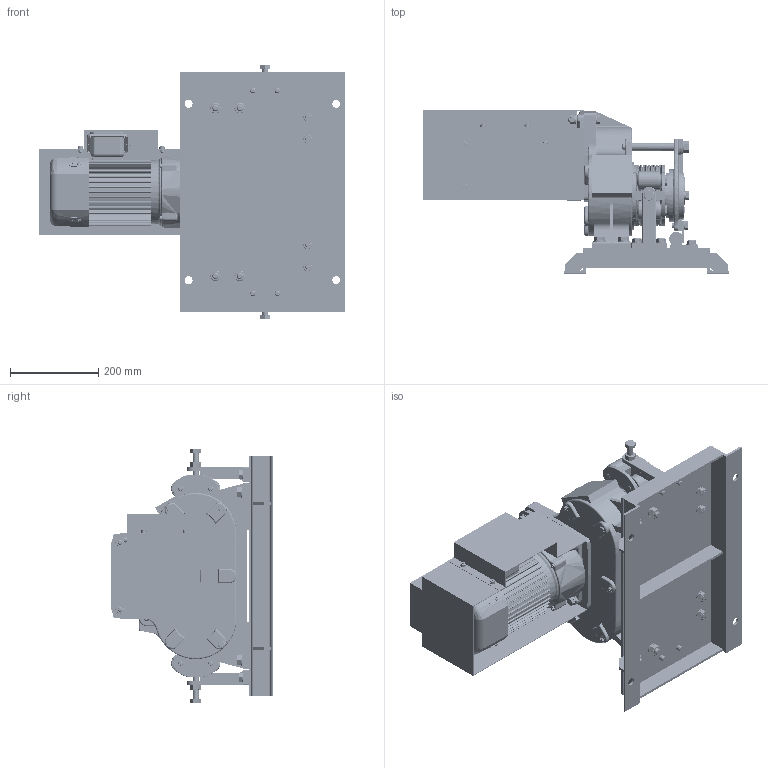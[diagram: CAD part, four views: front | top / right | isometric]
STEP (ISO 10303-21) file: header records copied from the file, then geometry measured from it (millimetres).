
FILE_DESCRIPTION( (''), '2;1');
FILE_NAME ('EME-700.stp','2023-05-11T14:15:41',(''),(''),'spGate 19.8.2 (****-****-****-****)','','');
FILE_SCHEMA (('AUTOMOTIVE_DESIGN'));
Length unit declared in the file: millimetre
Products named in the file (10): Assembly; EME-700-prt0; EME-700-prt1; EME-700-prt2; EME-700-prt3; EME-700-prt4; EME-700-prt5; EME-700-prt6; EME-700-prt7; EME-700-prt8
Assembly tree (9 placements, depth 2):
  Assembly
    EME-700-prt0
    EME-700-prt1
    EME-700-prt2
    EME-700-prt3
    EME-700-prt4
    EME-700-prt5
    EME-700-prt6
    EME-700-prt7
    EME-700-prt8
Bounding box: 695.5 x 369.5 x 578 mm (x, y, z)
Volume: 21446590.2 mm3; surface area: 2539111.5 mm2
Topology: 1 solids, 1 shells, 5075 faces, 12856 edges, 8102 vertices
Faces by surface type: plane 2689, cylinder 1433, bspline 933, sphere 20
Entity records: 287631 total; most frequent: CARTESIAN_POINT 68356, ORIENTED_EDGE 25672, DIRECTION 22822, COLOUR_RGB 17920, PRESENTATION_STYLE_ASSIGNMENT 17920, STYLED_ITEM 17920, EDGE_CURVE 12836, DRAUGHTING_PRE_DEFINED_CURVE_FONT 12836
